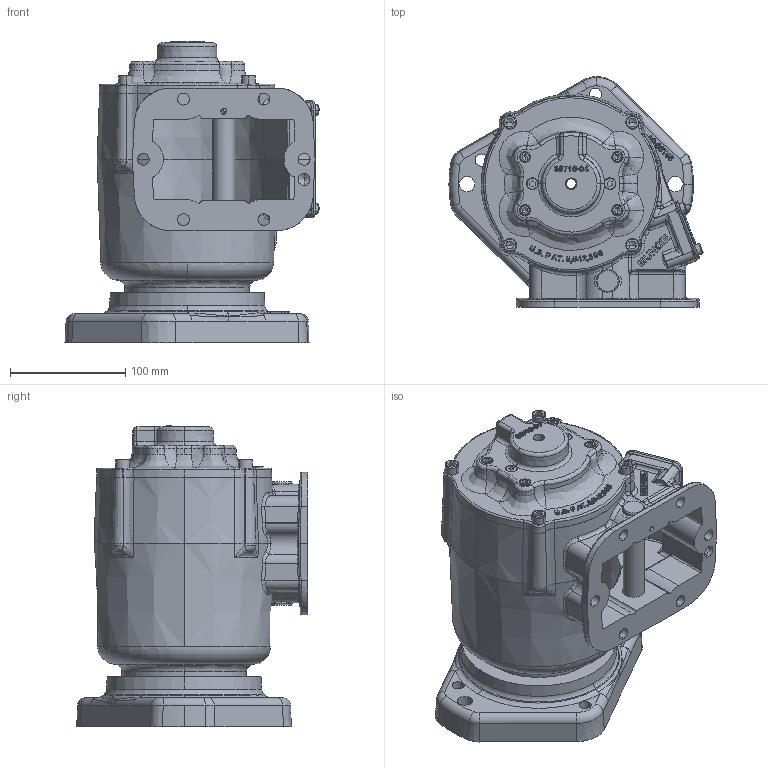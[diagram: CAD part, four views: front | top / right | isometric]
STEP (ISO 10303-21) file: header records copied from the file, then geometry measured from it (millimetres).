
FILE_DESCRIPTION (( 'STEP AP203' ), '1' );
FILE_NAME ('CS6S-XXXXX-E1EX.STEP', '2023-04-13T17:11:46', ( '' ), ( '' ), 'SwSTEP 2.0', 'SolidWorks 2021', '' );
FILE_SCHEMA (( 'CONFIG_CONTROL_DESIGN' ));
Length unit declared in the file: millimetre
Products named in the file (19): 12T34003; 01T37073; 27T36173_Free Length; 12T35949; 16T41119; 19T34717; 19T36174; 07T37071; 19T41118; CS6S-XXXXX-E1EX; 11T37795; 19T36082; 25T21684; 15T36717; 12T36751; 10T21017; 14T38719; 19T35237; 14TA5380_Config1
Assembly tree (35 placements, depth 3):
  CS6S-XXXXX-E1EX
    01T37073
    16T41119
    19T41118  x4
    15T36717
    12T34003
    19T35237  x4
    10T21017
    12T36751
    07T37071
    12T35949  x2
    27T36173_Free Length  x4
    19T36174  x4
    25T21684  x2
    19T34717  x4
    19T36082
    14TA5380_Config1
      14T38719
      11T37795
Bounding box: 220.84 x 200.85 x 262.09 mm (x, y, z)
Volume: 1646676.3 mm3; surface area: 459742.6 mm2
Topology: 34 solids, 35 shells, 2329 faces, 5845 edges, 3577 vertices
Faces by surface type: bspline 795, plane 567, cylinder 499, cone 296, torus 140, sphere 32
Entity records: 124028 total; most frequent: CARTESIAN_POINT 79158, ORIENTED_EDGE 10040, DIRECTION 6700, EDGE_CURVE 5020, VERTEX_POINT 3130, AXIS2_PLACEMENT_3D 2481, EDGE_LOOP 2206, B_SPLINE_CURVE_WITH_KNOTS 1996
